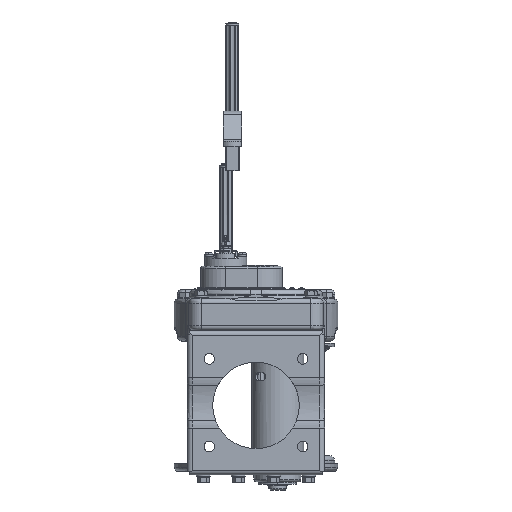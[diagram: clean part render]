
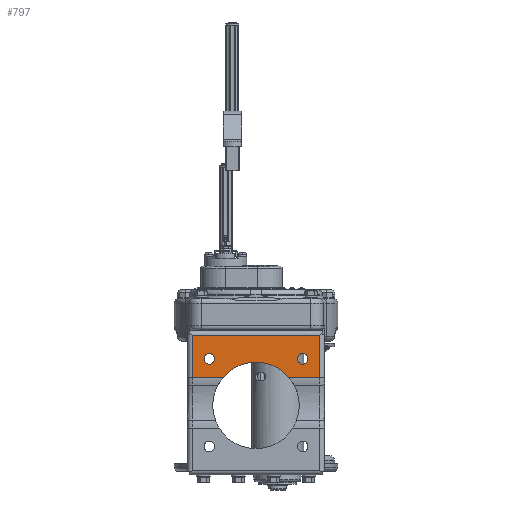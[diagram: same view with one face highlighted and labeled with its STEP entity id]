
A CAD part, front view. The second image highlights one B-rep face of the part: STEP entity #797.
In plain terms, the highlighted planar face has unit normal (0, -1, 0).
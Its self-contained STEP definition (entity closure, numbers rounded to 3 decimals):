
#797=ADVANCED_FACE('',(#9551,#9552,#9553),#9550,.F.);
#9550=PLANE('',#37123);
#9551=FACE_OUTER_BOUND('',#37124,.T.);
#9552=FACE_BOUND('',#37125,.T.);
#9553=FACE_BOUND('',#37126,.T.);
#37120=CARTESIAN_POINT('',(-127.722,-108.7,-182.168));
#37121=DIRECTION('',(0.,1.,0.));
#37122=DIRECTION('',(0.,0.,-1.));
#37123=AXIS2_PLACEMENT_3D('',#37120,#37121,#37122);
#37124=EDGE_LOOP('',(#57988,#57989,#57990,#57991,#57992,#57993,#57994));
#37125=EDGE_LOOP('',(#57995,#57996));
#37126=EDGE_LOOP('',(#57997,#57998));
#57988=ORIENTED_EDGE('',*,*,#71493,.T.);
#57989=ORIENTED_EDGE('',*,*,#71494,.T.);
#57990=ORIENTED_EDGE('',*,*,#71495,.T.);
#57991=ORIENTED_EDGE('',*,*,#71491,.T.);
#57992=ORIENTED_EDGE('',*,*,#71316,.T.);
#57993=ORIENTED_EDGE('',*,*,#71496,.F.);
#57994=ORIENTED_EDGE('',*,*,#71382,.F.);
#57995=ORIENTED_EDGE('',*,*,#71497,.T.);
#57996=ORIENTED_EDGE('',*,*,#71498,.T.);
#57997=ORIENTED_EDGE('',*,*,#71499,.T.);
#57998=ORIENTED_EDGE('',*,*,#71500,.T.);
#71316=EDGE_CURVE('',#90517,#90595,#90602,.T.);
#71382=EDGE_CURVE('',#90989,#91047,#91048,.T.);
#71491=EDGE_CURVE('',#91800,#90517,#91801,.T.);
#71493=EDGE_CURVE('',#90989,#91813,#91814,.T.);
#71494=EDGE_CURVE('',#91813,#91820,#91821,.T.);
#71495=EDGE_CURVE('',#91820,#91800,#91827,.T.);
#71496=EDGE_CURVE('',#91047,#90595,#91833,.T.);
#71497=EDGE_CURVE('',#91839,#91840,#91841,.T.);
#71498=EDGE_CURVE('',#91840,#91839,#91847,.T.);
#71499=EDGE_CURVE('',#91853,#91854,#91855,.T.);
#71500=EDGE_CURVE('',#91854,#91853,#91861,.T.);
#90517=VERTEX_POINT('',#135579);
#90595=VERTEX_POINT('',#135626);
#90602=LINE('',#135630,#135631);
#90989=VERTEX_POINT('',#135877);
#91047=VERTEX_POINT('',#135913);
#91048=LINE('',#135914,#135915);
#91800=VERTEX_POINT('',#136477);
#91801=LINE('',#136478,#136479);
#91813=VERTEX_POINT('',#136491);
#91814=LINE('',#136492,#136493);
#91820=VERTEX_POINT('',#136495);
#91821=CIRCLE('',#136499,74.);
#91827=CIRCLE('',#136503,74.);
#91833=LINE('',#136504,#136505);
#91839=VERTEX_POINT('',#136507);
#91840=VERTEX_POINT('',#136508);
#91841=CIRCLE('',#136512,9.);
#91847=CIRCLE('',#136516,9.);
#91853=VERTEX_POINT('',#136517);
#91854=VERTEX_POINT('',#136518);
#91855=CIRCLE('',#136522,9.);
#91861=CIRCLE('',#136526,9.);
#135579=CARTESIAN_POINT('',(-137.722,-108.7,-261.321));
#135626=CARTESIAN_POINT('',(-137.722,-108.7,-189.364));
#135630=CARTESIAN_POINT('',(-137.722,-108.7,-261.321));
#135631=VECTOR('',#135632,71.957);
#135632=DIRECTION('',(0.,0.,1.));
#135877=CARTESIAN_POINT('',(-356.722,-108.7,-261.321));
#135913=CARTESIAN_POINT('',(-356.722,-108.7,-189.364));
#135914=CARTESIAN_POINT('',(-356.722,-108.7,-261.321));
#135915=VECTOR('',#135916,71.957);
#135916=DIRECTION('',(0.,0.,1.));
#136477=CARTESIAN_POINT('',(-190.938,-108.7,-261.321));
#136478=CARTESIAN_POINT('',(-190.938,-108.7,-261.321));
#136479=VECTOR('',#136480,53.216);
#136480=DIRECTION('',(1.,0.,0.));
#136491=CARTESIAN_POINT('',(-303.505,-108.7,-261.321));
#136492=CARTESIAN_POINT('',(-356.722,-108.7,-261.321));
#136493=VECTOR('',#136494,53.216);
#136494=DIRECTION('',(1.,0.,0.));
#136495=CARTESIAN_POINT('',(-247.222,-108.7,-235.364));
#136496=CARTESIAN_POINT('',(-247.222,-108.7,-309.364));
#136497=DIRECTION('',(0.,1.,0.));
#136498=DIRECTION('',(-0.761,0.,0.649));
#136499=AXIS2_PLACEMENT_3D('',#136496,#136497,#136498);
#136500=CARTESIAN_POINT('',(-247.222,-108.7,-309.364));
#136501=DIRECTION('',(0.,1.,0.));
#136502=DIRECTION('',(-0.761,0.,0.649));
#136503=AXIS2_PLACEMENT_3D('',#136500,#136501,#136502);
#136504=CARTESIAN_POINT('',(-356.722,-108.7,-189.364));
#136505=VECTOR('',#136506,219.);
#136506=DIRECTION('',(1.,0.,0.));
#136507=CARTESIAN_POINT('',(-167.222,-108.7,-238.864));
#136508=CARTESIAN_POINT('',(-167.222,-108.7,-220.864));
#136509=CARTESIAN_POINT('',(-167.222,-108.7,-229.864));
#136510=DIRECTION('',(0.,1.,0.));
#136511=DIRECTION('',(0.,0.,-1.));
#136512=AXIS2_PLACEMENT_3D('',#136509,#136510,#136511);
#136513=CARTESIAN_POINT('',(-167.222,-108.7,-229.864));
#136514=DIRECTION('',(0.,1.,0.));
#136515=DIRECTION('',(0.,0.,-1.));
#136516=AXIS2_PLACEMENT_3D('',#136513,#136514,#136515);
#136517=CARTESIAN_POINT('',(-327.222,-108.7,-238.864));
#136518=CARTESIAN_POINT('',(-327.222,-108.7,-220.864));
#136519=CARTESIAN_POINT('',(-327.222,-108.7,-229.864));
#136520=DIRECTION('',(0.,1.,0.));
#136521=DIRECTION('',(0.,0.,-1.));
#136522=AXIS2_PLACEMENT_3D('',#136519,#136520,#136521);
#136523=CARTESIAN_POINT('',(-327.222,-108.7,-229.864));
#136524=DIRECTION('',(0.,1.,0.));
#136525=DIRECTION('',(0.,0.,-1.));
#136526=AXIS2_PLACEMENT_3D('',#136523,#136524,#136525);
